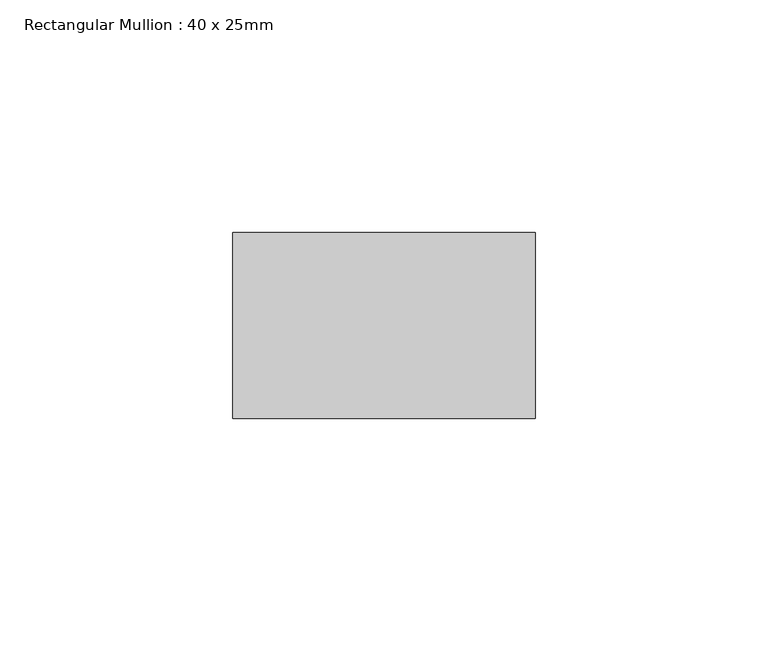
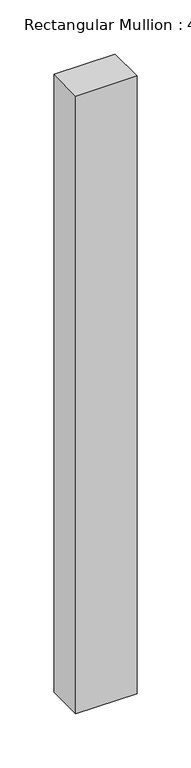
"""IFC4 building model written with IfcOpenShell, lengths in millimetres: member geometry, Rectangular Mullion : 40 x 25mm."""

from ifc_helpers import new_model, si_unit, frame, origin, place, context, project, spatial, polyline, outline, extrude, source, transform, mapped, element, save


def rectangular_mullion_40_x_25mm_33fe0828(model_context):
    return source(origin(), model_context, "Body", "SweptSolid", [
        extrude(outline(polyline([(40.0, -20.0), (40.0, -60.0), (-25.0, -60.0), (-25.0, -20.0), (40.0, -20.0)])), frame((0.0, 0.0, -695.0), z_axis=(0.0, 0.0, 1.0), x_axis=(1.0, 0.0, 0.0)), (0.0, 0.0, 1.0), 695.0),
    ])


if __name__ == "__main__":
    model = new_model("IFC4")
    model_context = context("Model", 3, world=origin())
    ifc_project = project(units=[si_unit("LENGTHUNIT", "METRE", prefix="MILLI")], contexts=[model_context])
    site = spatial("IfcSite", under=ifc_project)
    building = spatial("IfcBuilding", under=site)
    placement = place(None, origin())
    rectangular_mullion_40_x_25mm_shape = rectangular_mullion_40_x_25mm_33fe0828(model_context)
    element("IfcMember", 1, ObjectType="Rectangular Mullion : 40 x 25mm", at=placement, inside=building, context=model_context, shape_type="MappedRepresentation", body=[
        mapped(rectangular_mullion_40_x_25mm_shape, transform((0.0, 0.0, 0.0), x_axis=(1.0, 0.0, 0.0), y_axis=(0.0, 1.0, 0.0), z_axis=(0.0, 0.0, 1.0))),
    ])
    save(model, "model.ifc")
